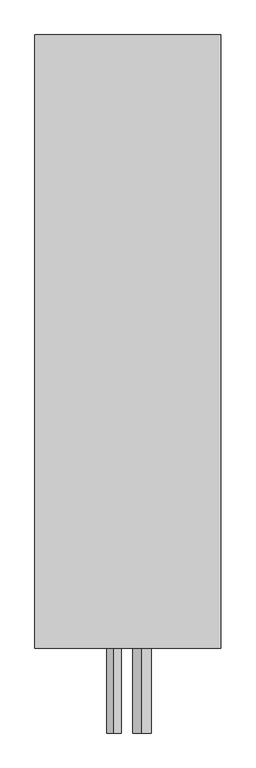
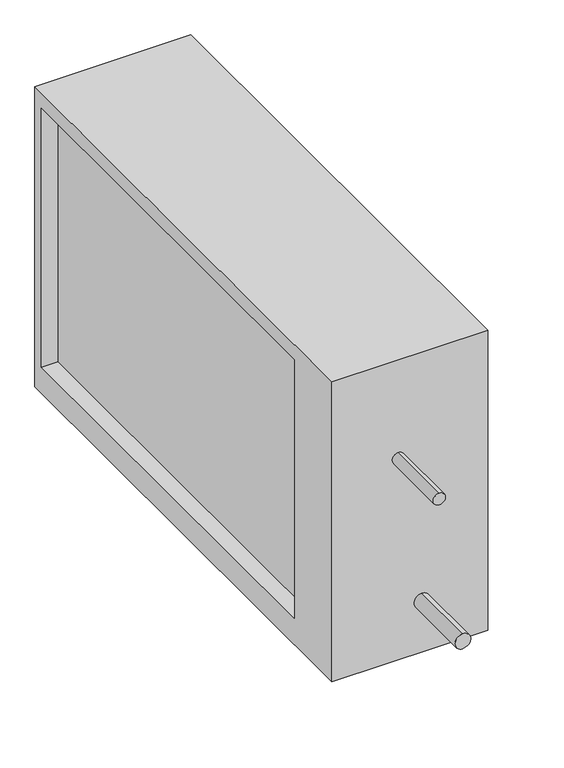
"""IFC4 building model written with IfcOpenShell, lengths in millimetres: proxy geometry, СВ_ВоздухоохладительФреоновый_КанальныйПрямоугольный_200-1000_SPC-F : SPC-F-800x500-R."""

from ifc_helpers import new_model, si_unit, point, frame, frame_2d, origin, place, context, project, spatial, polyline, circle_curve, trimmed, segment, composite_curve, outline, extrude, source, transform, mapped, element, save


def mechanical_equipment_e0928fff(model_context):
    return source(origin(), model_context, "Body", "SweptSolid", [
        extrude(outline(polyline([(-520.0, -300.0), (-520.0, 280.0), (420.0, 280.0), (420.0, -300.0), (-520.0, -300.0)]), holes=[polyline([(-400.0, 250.0), (-400.0, -250.0), (400.0, -250.0), (400.0, 250.0), (-400.0, 250.0)])]), frame((-142.5, 0.0, 0.0), z_axis=(1.0, 0.0, 0.0), x_axis=(0.0, 1.0, 0.0)), (0.0, 0.0, 1.0), 285.0),
        extrude(outline(composite_curve([segment(trimmed(circle_curve(frame_2d((-200.0, 21.5)), 14.3), [point((-185.7, 21.5))], [point((-214.3, 21.5))], False, "CARTESIAN"), True, "CONTINUOUS"), segment(trimmed(circle_curve(frame_2d((-200.0, 21.5)), 14.3), [point((-214.3, 21.5))], [point((-185.7, 21.5))], False, "CARTESIAN"), True, "CONTINUOUS")], self_intersect=False)), frame((0.0, -650.0, 0.0), z_axis=(0.0, 1.0, 0.0), x_axis=(0.0, 0.0, 1.0)), (0.0, 0.0, 1.0), 130.0),
        extrude(outline(composite_curve([segment(trimmed(circle_curve(frame_2d((90.0, -21.5)), 11.1), [point((101.1, -21.5))], [point((78.9, -21.5))], False, "CARTESIAN"), True, "CONTINUOUS"), segment(trimmed(circle_curve(frame_2d((90.0, -21.5)), 11.1), [point((78.9, -21.5))], [point((101.1, -21.5))], False, "CARTESIAN"), True, "CONTINUOUS")], self_intersect=False)), frame((0.0, -650.0, 0.0), z_axis=(0.0, 1.0, 0.0), x_axis=(0.0, 0.0, 1.0)), (0.0, 0.0, 1.0), 130.0),
        extrude(outline(composite_curve([segment(trimmed(circle_curve(frame_2d((0.0, -480.0)), 11.0), [point((-11.0, -480.0))], [point((11.0, -480.0))], False, "CARTESIAN"), True, "CONTINUOUS"), segment(trimmed(circle_curve(frame_2d((0.0, -480.0)), 11.0), [point((11.0, -480.0))], [point((-11.0, -480.0))], False, "CARTESIAN"), True, "CONTINUOUS")], self_intersect=False)), frame((0.0, 0.0, -320.0), z_axis=(0.0, 0.0, 1.0), x_axis=(1.0, 0.0, 0.0)), (0.0, 0.0, 1.0), 20.0),
        extrude(outline(polyline([(112.5, 400.0), (112.5, -400.0), (-112.5, -400.0), (-112.5, 400.0), (112.5, 400.0)])), frame((0.0, 0.0, -250.0), z_axis=(0.0, 0.0, 1.0), x_axis=(1.0, 0.0, 0.0)), (0.0, 0.0, 1.0), 500.0),
    ])


if __name__ == "__main__":
    model = new_model("IFC4")
    model_context = context("Model", 3, world=origin())
    ifc_project = project(units=[si_unit("LENGTHUNIT", "METRE", prefix="MILLI")], contexts=[model_context])
    site = spatial("IfcSite", under=ifc_project)
    building = spatial("IfcBuilding", under=site)
    placement = place(None, origin())
    mechanical_equipment_shape = mechanical_equipment_e0928fff(model_context)
    element("IfcBuildingElementProxy", 1, Name="СВ_ВоздухоохладительФреоновый_КанальныйПрямоугольный_200-1000_SPC-F : SPC-F-800x500-R", ObjectType="СВ_ВоздухоохладительФреоновый_КанальныйПрямоугольный_200-1000_SPC-F : SPC-F-800x500-R", at=placement, inside=building, context=model_context, shape_type="MappedRepresentation", body=[
        mapped(mechanical_equipment_shape, transform((0.0, 0.0, 0.0), x_axis=(1.0, 0.0, 0.0), y_axis=(0.0, 1.0, 0.0), z_axis=(0.0, 0.0, 1.0))),
    ])
    save(model, "model.ifc")
